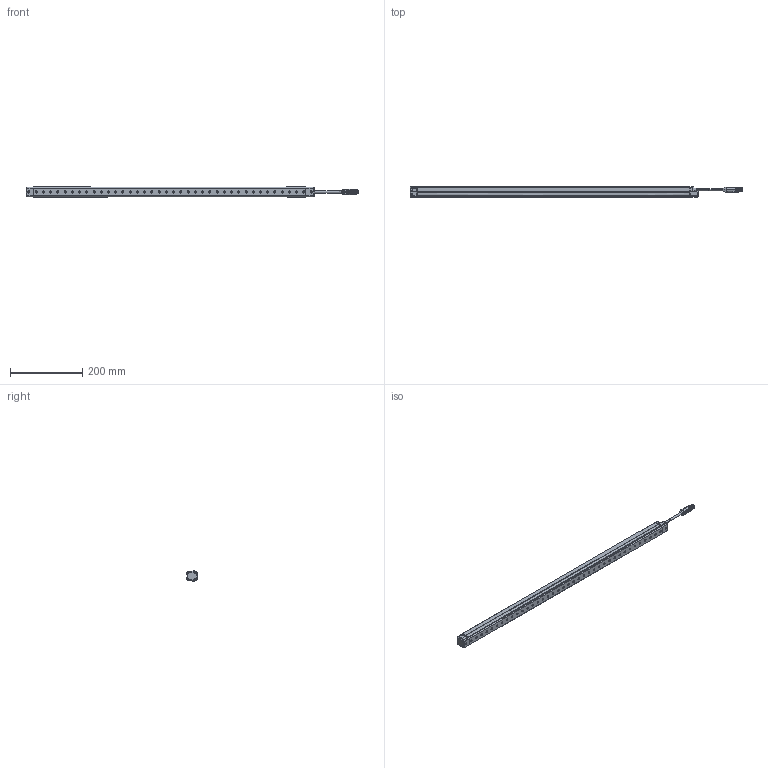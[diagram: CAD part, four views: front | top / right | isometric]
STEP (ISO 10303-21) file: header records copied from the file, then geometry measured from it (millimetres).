
FILE_DESCRIPTION((''),'2;1');
FILE_NAME('EFP-4020_ASM','2022-12-28T08:57:34',('18720616900'),(''),'CREO PARAMETRIC BY PTC INC, 2019010','CREO PARAMETRIC BY PTC INC, 2019010','');
FILE_SCHEMA(('CONFIG_CONTROL_DESIGN'));
Products named in the file (9): EFP-3-_A; EFP-3-_AF; EFP2-0; M26-14; M26-30; _0002; _0001_ASM; EFP-4020_ASM
Assembly tree (14 placements, depth 3):
  EFP-4020_ASM
    EFP-3-_A
    EFP-3-_AF
    EFP-3-_AF
    EFP2-0
    M26-14  x2
    M26-30  x6
    _0001_ASM
      _0002
Bounding box: 917.47 x 30 x 28.01 mm (x, y, z)
Volume: 577554.5 mm3; surface area: 144581.8 mm2
Topology: 13 solids, 649 shells, 3034 faces, 9751 edges, 7437 vertices
Faces by surface type: bspline 1174, plane 741, cone 450, cylinder 442, extrusion 161, torus 60, revolution 4, sphere 2
Entity records: 141518 total; most frequent: CARTESIAN_POINT 81416, ORIENTED_EDGE 11956, DIRECTION 8993, EDGE_CURVE 7935, VERTEX_POINT 6316, VECTOR 4027, LINE 3866, B_SPLINE_CURVE_WITH_KNOTS 3082
